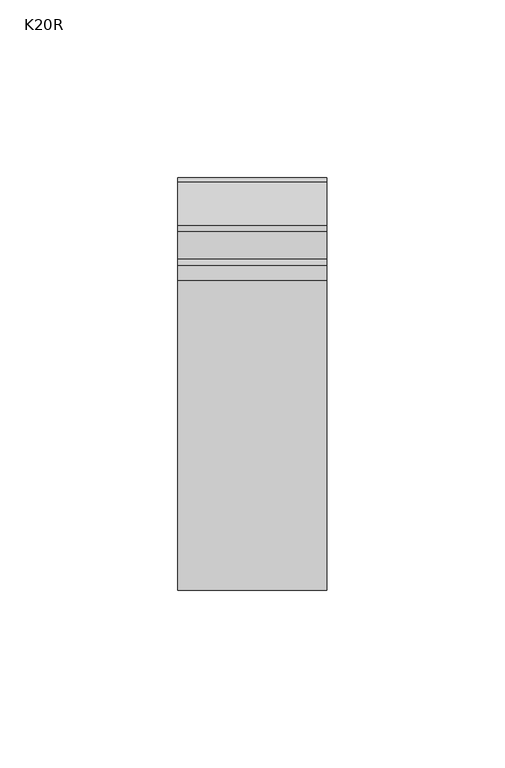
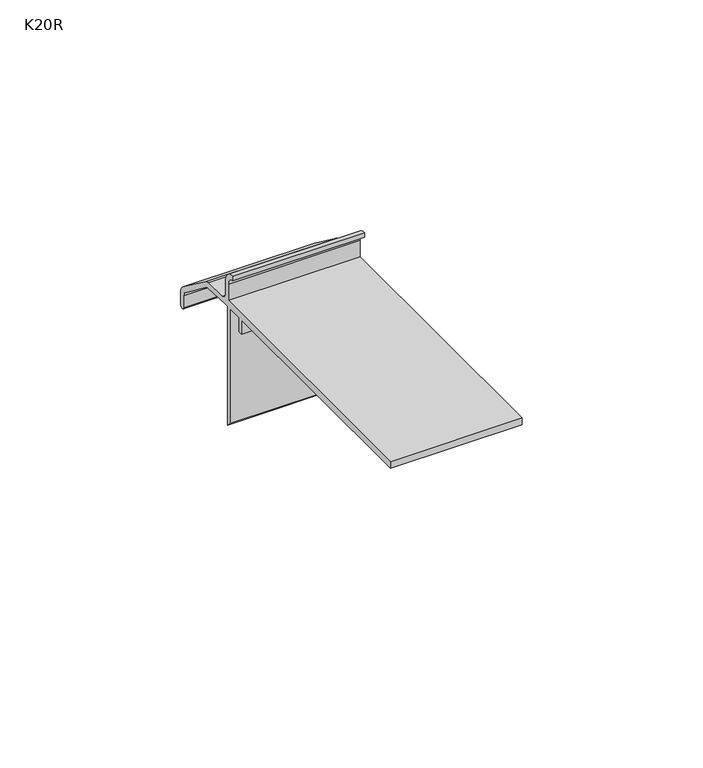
"""IFC4 building model written with IfcOpenShell, lengths in millimetres: proxy geometry, K20R Profil okapowy prosty z rynną : K20R."""

import ifcopenshell
import ifcopenshell.guid

model = None  # the IFC model being written
_history = None  # IfcOwnerHistory: only IFC2X3 demands one
_inside = {}  # id of a spatial element -> (the spatial element, [elements in it])
_under = {}  # id of a project, library or spatial element -> (it, [spatial elements below it])
_declared = {}  # id of a project -> (the project, [libraries it declares])
_typed = {}  # id of a type object -> (the type object, [elements of that type])
_made_of = {}  # id of a material, layer set ... -> (it, [elements and type objects made of it])


def new_model(schema):
    """Start an empty IFC model of exactly this schema.

    Asked for "IFC4X3", IfcOpenShell would pick the latest addendum, in which some entities
    have other attributes; the version numbers below select the first issue.
    IFC2X3 requires an IfcOwnerHistory on every rooted entity: one is made here for all.
    """
    global model, _history
    if schema == "IFC4X3":
        model = ifcopenshell.file(schema_version=(4, 3, 0, 0))
    else:
        model = ifcopenshell.file(schema=schema)
    _inside.clear()
    _under.clear()
    _declared.clear()
    _typed.clear()
    _made_of.clear()
    _history = None
    if model.schema == "IFC2X3":
        org = make("IfcOrganization", Name="unknown")
        user = make(
            "IfcPersonAndOrganization",
            ThePerson=make("IfcPerson", FamilyName="unknown"),
            TheOrganization=org,
        )
        app = make(
            "IfcApplication",
            ApplicationDeveloper=org,
            Version="unknown",
            ApplicationFullName="unknown",
            ApplicationIdentifier="unknown",
        )
        _history = make(
            "IfcOwnerHistory",
            OwningUser=user,
            OwningApplication=app,
            ChangeAction="ADDED",
            CreationDate=0,
        )
    return model


def make(cls, **values):
    """One entity of the class cls with the attributes given. An attribute that is None is left unset."""
    return model.create_entity(
        cls, **{name: value for name, value in values.items() if value is not None}
    )


def rooted(cls, **values):
    """An entity with a GlobalId (a new one), such as an element, a storey or a relation."""
    return make(cls, GlobalId=ifcopenshell.guid.new(), OwnerHistory=_history, **values)


def si_unit(unit_type, name, prefix=None):
    """IfcSIUnit, for example si_unit("LENGTHUNIT", "METRE", prefix="MILLI")."""
    return make("IfcSIUnit", UnitType=unit_type, Prefix=prefix, Name=name)


def assignment(units):
    """IfcUnitAssignment: the units of a project."""
    return None if units is None else make("IfcUnitAssignment", Units=units)


def point(xyz):
    """IfcCartesianPoint."""
    return None if xyz is None else make("IfcCartesianPoint", Coordinates=xyz)


def direction(xyz):
    """IfcDirection."""
    return None if xyz is None else make("IfcDirection", DirectionRatios=xyz)


def frame(location, z_axis=None, x_axis=None):
    """IfcAxis2Placement3D, a coordinate frame: its origin and axes. An axis left out is left unset."""
    return make(
        "IfcAxis2Placement3D",
        Location=point(location),
        Axis=direction(z_axis),
        RefDirection=direction(x_axis),
    )


def origin():
    """The frame at (0, 0, 0) with its axes left unset."""
    return frame((0.0, 0.0, 0.0))


def place(relative_to, where):
    """IfcLocalPlacement: puts the frame where relative to a parent placement (None: the world)."""
    return make(
        "IfcLocalPlacement", PlacementRelTo=relative_to, RelativePlacement=where
    )


def context(
    kind, dimensions, precision=None, world=None, true_north=None, identifier=None
):
    """IfcGeometricRepresentationContext, for example the 3D "Model" context."""
    return make(
        "IfcGeometricRepresentationContext",
        ContextIdentifier=identifier,
        ContextType=kind,
        CoordinateSpaceDimension=dimensions,
        Precision=precision,
        WorldCoordinateSystem=world,
        TrueNorth=true_north,
    )


def project(units=None, contexts=None):
    """IfcProject with its units and contexts."""
    return rooted(
        "IfcProject",
        Name="project",
        RepresentationContexts=contexts,
        UnitsInContext=assignment(units),
    )


def spatial(cls, under=None, at=None, **own):
    """A site, building, storey or space (cls), placed at a placement, below another one or the project."""
    s = rooted(cls, ObjectPlacement=at, **own)
    if under is not None:
        _under.setdefault(under.id(), (under, []))[1].append(s)
    return s


def polyline(points):
    """IfcPolyline through the points."""
    return make("IfcPolyline", Points=[point(p) for p in points])


def circle_curve(where, radius):
    """IfcCircle in the frame where."""
    return make("IfcCircle", Position=where, Radius=radius)


def shape(context_of_items, identifier, shape_type, items):
    """IfcShapeRepresentation: the items that make up one representation, for example the "Body"."""
    return make(
        "IfcShapeRepresentation",
        ContextOfItems=context_of_items,
        RepresentationIdentifier=identifier,
        RepresentationType=shape_type,
        Items=items,
    )


def source(mapping_origin, context_of_items, identifier, shape_type, items):
    """IfcRepresentationMap: a shape defined once, which mapped items show again and again."""
    return make(
        "IfcRepresentationMap",
        MappingOrigin=mapping_origin,
        MappedRepresentation=shape(context_of_items, identifier, shape_type, items),
    )


def transform(
    local_origin,
    x_axis=None,
    y_axis=None,
    z_axis=None,
    scale=None,
    scale2=None,
    scale3=None,
    uniform=True,
):
    """IfcCartesianTransformationOperator3D, or its non-uniform kind. x_axis, y_axis, z_axis: its Axis1, 2, 3."""
    if uniform:
        return make(
            "IfcCartesianTransformationOperator3D",
            Axis1=direction(x_axis),
            Axis2=direction(y_axis),
            LocalOrigin=point(local_origin),
            Scale=scale,
            Axis3=direction(z_axis),
        )
    return make(
        "IfcCartesianTransformationOperator3DnonUniform",
        Axis1=direction(x_axis),
        Axis2=direction(y_axis),
        LocalOrigin=point(local_origin),
        Scale=scale,
        Axis3=direction(z_axis),
        Scale2=scale2,
        Scale3=scale3,
    )


def mapped(mapping_source, mapping_target):
    """IfcMappedItem: shows the shape of a source again, moved by a transform."""
    return make(
        "IfcMappedItem", MappingSource=mapping_source, MappingTarget=mapping_target
    )


def made_of(thing, what):
    """Note that an element or type object is made of a material, layer set ...; save() writes the relation."""
    if what is not None:
        _made_of.setdefault(what.id(), (what, []))[1].append(thing)
    return thing


def element(
    cls,
    number,
    at=None,
    inside=None,
    cuts=None,
    type_object=None,
    material=None,
    context=None,
    identifier="Body",
    shape_type=None,
    held_by="IfcProductDefinitionShape",
    body=None,
    shapes=None,
    **own,
):
    """One element of the class cls, such as IfcWall. Its Tag is "e" and its number.

    at: its placement. inside: the storey or other place that contains it. cuts: it is an
    opening in that element (IfcRelVoidsElement). A single representation is given by context,
    identifier, shape_type and body (its items); several are given by shapes. held_by: the class
    of the entity that holds the representations. save() writes the other relations.
    """
    e = rooted(cls, Tag="e%d" % number, ObjectPlacement=at, **own)
    if body is not None:
        shapes = [shape(context, identifier, shape_type, body)]
    if shapes is not None:
        e.Representation = make(held_by, Representations=shapes)
    if inside is not None:
        _inside.setdefault(inside.id(), (inside, []))[1].append(e)
    if cuts is not None:
        rooted(
            "IfcRelVoidsElement", RelatingBuildingElement=cuts, RelatedOpeningElement=e
        )
    if type_object is not None:
        _typed.setdefault(type_object.id(), (type_object, []))[1].append(e)
    return made_of(e, material)


def aggregate(whole, parts):
    """IfcRelAggregates: a whole, such as a stair, and the parts it consists of."""
    return rooted("IfcRelAggregates", RelatingObject=whole, RelatedObjects=parts)


def save(model, path):
    """Write the relations noted so far, then the file.

    IfcRelAggregates (storeys below a building ...), IfcRelContainedInSpatialStructure (elements
    in a storey), IfcRelDefinesByType, IfcRelAssociatesMaterial and IfcRelDeclares: one each for
    every whole, place, type object, material and project.
    """
    for whole, parts in _under.values():
        aggregate(whole, parts)
    for where, things in _inside.values():
        rooted(
            "IfcRelContainedInSpatialStructure",
            RelatedElements=things,
            RelatingStructure=where,
        )
    for kind, things in _typed.values():
        rooted("IfcRelDefinesByType", RelatedObjects=things, RelatingType=kind)
    for what, things in _made_of.values():
        rooted("IfcRelAssociatesMaterial", RelatedObjects=things, RelatingMaterial=what)
    for by, libraries in _declared.values():
        rooted("IfcRelDeclares", RelatingContext=by, RelatedDefinitions=libraries)
    model.write(path)


def plane_surface(at):
    """IfcPlane: the flat surface through the origin of the frame at, square to its z axis."""
    return make("IfcPlane", Position=at)


def cylinder_surface(at, radius):
    """IfcCylindricalSurface: all points at the distance radius from the z axis of the frame at."""
    return make("IfcCylindricalSurface", Position=at, Radius=radius)


def revolved_surface(curve, axis_point, axis_direction):
    """IfcSurfaceOfRevolution: the curve turned about the line through axis_point along axis_direction."""
    return make(
        "IfcSurfaceOfRevolution",
        SweptCurve=make("IfcArbitraryOpenProfileDef", ProfileType="CURVE", Curve=curve),
        AxisPosition=make("IfcAxis1Placement", Location=point(axis_point), Axis=direction(axis_direction)),
    )


def advanced_brep(points, edges, surfaces, faces):
    """IfcAdvancedBrep: a solid bounded by faces that lie on surfaces and meet in shared edges.

    An edge is (start, end): straight between two places in points (the first is 0);
    or (start, end, curve); or (start, end, curve, False) where it runs against its curve.
    A face is (place in surfaces, loops), or (place, loops, False) where it looks against
    its surface's normal. A loop lists edges by number (the first is 1), with a minus sign
    where the edge is run from its end to its start. The first loop is the outer one.
    """
    corners = [point(p) for p in points]
    vertices = [make("IfcVertexPoint", VertexGeometry=c) for c in corners]
    made = []
    for start, end, *more in edges:
        made.append(
            make(
                "IfcEdgeCurve",
                EdgeStart=vertices[start],
                EdgeEnd=vertices[end],
                EdgeGeometry=more[0] if more else make("IfcPolyline", Points=[corners[start], corners[end]]),
                SameSense=more[1] if len(more) > 1 else True,
            )
        )
    hull = []
    for where, loops, *sense in faces:
        bounds = []
        for j, loop in enumerate(loops):
            ring = [make("IfcOrientedEdge", EdgeElement=made[abs(k) - 1], Orientation=k > 0) for k in loop]
            bounds.append(
                make(
                    "IfcFaceOuterBound" if j == 0 else "IfcFaceBound",
                    Bound=make("IfcEdgeLoop", EdgeList=ring),
                    Orientation=True,
                )
            )
        hull.append(make("IfcAdvancedFace", Bounds=bounds, FaceSurface=surfaces[where], SameSense=sense[0] if sense else True))
    return make("IfcAdvancedBrep", Outer=make("IfcClosedShell", CfsFaces=hull))


def k20r_fd4bf74c(model_context):
    return source(origin(), model_context, "Body", "AdvancedBrep", [
        advanced_brep(
        [(0.0, 4.0000007, -8.2869169), (0.0, 5.930201, -10.2872957), (0.0, 13.7033457, -10.5587402), (0.0, 15.4054451, -11.1610531), (0.0, 27.605445, -20.3544126), (0.0, 28.8, -22.750319), (0.0, 28.8, -27.0198916), (0.0, 27.1, -27.0198916), (0.0, 27.1, -23.0993261), (0.0, 26.3036301, -21.5020551), (0.0, 14.4327214, -12.5566836), (0.0, 13.5823481, -12.2555508), (0.0, 3.9703269, -11.9198912), (0.0, 2.8999983, -11.9198912), (0.0, 2.8999983, -51.9948908), (0.0, 1.3999986, -50.494891), (0.0, 1.3999986, -11.9198912), (0.0, -3.6000013, -11.9198912), (0.0, -3.6000013, -16.6198916), (0.0, -4.7999993, -16.6198916), (0.0, -4.7999993, -11.9198912), (0.0, -87.2999988, -11.9198912), (0.0, -87.2999988, -9.6198913), (0.0, 2.3999996, -9.6198913), (0.0, 2.3999996, -4.1001397), (0.0, 0.0, -1.6007811), (0.0, 0.0, 0.0), (0.0, 4.0, -4.0987803), (42.000476, 4.0000007, -8.2869169), (42.000476, 4.0000007, -4.0987801), (42.000476, 0.0, 0.0), (42.000476, 0.0, -1.6007811), (42.000476, 2.3999996, -4.1001397), (42.000476, 2.3999996, -9.6198913), (42.000476, -87.2999988, -9.6198913), (42.000476, -87.2999988, -11.9198912), (42.000476, -4.7999993, -11.9198912), (42.000476, -4.7999993, -16.6198916), (42.000476, -3.6000013, -16.6198916), (42.000476, -3.6000013, -11.9198912), (42.000476, 1.3999986, -11.9198912), (42.000476, 1.3999986, -50.494891), (42.000476, 2.8999983, -51.9948908), (42.000476, 2.8999983, -11.9198912), (42.000476, 3.9703269, -11.9198912), (42.000476, 13.5823481, -12.255551), (42.000476, 14.4327213, -12.5566837), (42.000476, 26.3036302, -21.502055), (42.000476, 27.1, -23.0993261), (42.000476, 27.1, -27.0198916), (42.000476, 28.8, -27.0198916), (42.000476, 28.8, -22.750319), (42.000476, 27.6054451, -20.3544125), (42.000476, 15.4054451, -11.1610531), (42.000476, 13.7033457, -10.5587402), (42.000476, 5.930201, -10.2872957)],
        [
            (0, 1, circle_curve(frame((0.0, 6.0, -8.288514), z_axis=(1.0, 0.0, 0.0), x_axis=(0.0, -1.0, 0.0)), 2.0)),
            (1, 2),
            (2, 3, circle_curve(frame((0.0, 13.6, -13.5569596), z_axis=(-1.0, 0.0, 0.0), x_axis=(0.0, -1.0, 0.0)), 3.0)),
            (3, 4),
            (4, 5, circle_curve(frame((0.0, 25.8, -22.750319), z_axis=(-1.0, 0.0, 0.0), x_axis=(0.0, -1.0, 0.0)), 3.0)),
            (5, 6),
            (6, 7, circle_curve(frame((0.0, 27.95, -27.0198916), z_axis=(-1.0, 0.0, 0.0), x_axis=(0.0, -1.0, 0.0)), 0.85)),
            (7, 8),
            (8, 9, circle_curve(frame((0.0, 25.1, -23.0993261), z_axis=(1.0, 0.0, 0.0), x_axis=(0.0, -1.0, 0.0)), 2.0)),
            (9, 10),
            (10, 11, circle_curve(frame((0.0, 13.5299988, -13.754637), z_axis=(1.0, 0.0, 0.0), x_axis=(0.0, -1.0, 0.0)), 1.5)),
            (11, 12),
            (12, 13),
            (13, 14),
            (14, 15),
            (15, 16),
            (16, 17),
            (17, 18),
            (18, 19),
            (19, 20),
            (20, 21),
            (21, 22),
            (22, 23),
            (23, 24),
            (24, 25, circle_curve(frame((0.0, -0.1, -4.0987803), z_axis=(1.0, 0.0, 0.0), x_axis=(0.0, -1.0, 0.0)), 2.5)),
            (25, 26),
            (26, 27, circle_curve(frame((0.0, -0.1, -4.0987803), z_axis=(-1.0, 0.0, 0.0), x_axis=(0.0, -1.0, 0.0)), 4.1)),
            (27, 0),
            (28, 29),
            (29, 30, circle_curve(frame((42.000476, -0.1, -4.0987803), z_axis=(1.0, 0.0, 0.0), x_axis=(0.0, -1.0, 0.0)), 4.1)),
            (30, 31),
            (31, 32, circle_curve(frame((42.000476, -0.1, -4.0987803), z_axis=(-1.0, 0.0, 0.0), x_axis=(0.0, -1.0, 0.0)), 2.5)),
            (32, 33),
            (33, 34),
            (34, 35),
            (35, 36),
            (36, 37),
            (37, 38),
            (38, 39),
            (39, 40),
            (40, 41),
            (41, 42),
            (42, 43),
            (43, 44),
            (44, 45),
            (45, 46, circle_curve(frame((42.000476, 13.5299988, -13.754637), z_axis=(-1.0, 0.0, 0.0), x_axis=(0.0, -1.0, 0.0)), 1.5)),
            (46, 47),
            (47, 48, circle_curve(frame((42.000476, 25.1, -23.0993261), z_axis=(-1.0, 0.0, 0.0), x_axis=(0.0, -1.0, 0.0)), 2.0)),
            (48, 49),
            (49, 50, circle_curve(frame((42.000476, 27.95, -27.0198916), z_axis=(1.0, 0.0, 0.0), x_axis=(0.0, -1.0, 0.0)), 0.85)),
            (50, 51),
            (51, 52, circle_curve(frame((42.000476, 25.8, -22.750319), z_axis=(1.0, 0.0, 0.0), x_axis=(0.0, -1.0, 0.0)), 3.0)),
            (52, 53),
            (53, 54, circle_curve(frame((42.000476, 13.6, -13.5569596), z_axis=(1.0, 0.0, 0.0), x_axis=(0.0, -1.0, 0.0)), 3.0)),
            (54, 55),
            (55, 28, circle_curve(frame((42.000476, 6.0, -8.288514), z_axis=(-1.0, 0.0, 0.0), x_axis=(0.0, -1.0, 0.0)), 2.0)),
            (27, 29),
            (28, 0),
            (26, 30),
            (25, 31),
            (24, 32),
            (23, 33),
            (22, 34),
            (21, 35),
            (20, 36),
            (19, 37),
            (18, 38),
            (17, 39),
            (16, 40),
            (15, 41),
            (14, 42),
            (13, 43),
            (12, 44),
            (11, 45),
            (10, 46),
            (9, 47),
            (8, 48),
            (7, 49),
            (6, 50),
            (5, 51),
            (4, 52),
            (3, 53),
            (2, 54),
            (1, 55),
        ],
        [
            plane_surface(frame((0.0, 0.0, 0.0), z_axis=(-1.0, 0.0, 0.0), x_axis=(0.0, 0.0, 1.0))),
            plane_surface(frame((42.000476, 0.0, 0.0), z_axis=(1.0, 0.0, 0.0), x_axis=(0.0, 0.0, 1.0))),
            plane_surface(frame((0.0, 4.0000007, -8.2869169), z_axis=(0.0, 1.0, 0.0), x_axis=(1.0, 0.0, 0.0))),
            cylinder_surface(frame((0.0, -0.1, -4.0987803), z_axis=(-1.0, 0.0, 0.0), x_axis=(0.0, -1.0, 0.0)), 4.1),
            plane_surface(frame((0.0, 0.0, 0.0), z_axis=(0.0, -1.0, 0.0), x_axis=(1.0, 0.0, 0.0))),
            revolved_surface(polyline([(42.000476, -2.6, -4.0987803), (0.0, -2.6, -4.0987803)]), (0.0, -0.1, -4.0987803), (1.0, 0.0, 0.0)),
            plane_surface(frame((0.0, 2.3999996, -4.1001397), z_axis=(0.0, -1.0, 0.0), x_axis=(1.0, 0.0, 0.0))),
            plane_surface(frame((0.0, 2.3999996, -9.6198913), z_axis=(0.0, 0.0, 1.0), x_axis=(1.0, 0.0, 0.0))),
            plane_surface(frame((0.0, -87.2999988, -9.6198913), z_axis=(0.0, -1.0, 0.0), x_axis=(1.0, 0.0, 0.0))),
            plane_surface(frame((0.0, -87.2999988, -11.9198912), z_axis=(0.0, 0.0, -1.0), x_axis=(1.0, 0.0, 0.0))),
            plane_surface(frame((0.0, -4.7999993, -11.9198912), z_axis=(0.0, -1.0, 0.0), x_axis=(1.0, 0.0, 0.0))),
            plane_surface(frame((0.0, -4.7999993, -16.6198916), z_axis=(0.0, 0.0, -1.0), x_axis=(1.0, 0.0, 0.0))),
            plane_surface(frame((0.0, -3.6000013, -16.6198916), z_axis=(0.0, 1.0, 0.0), x_axis=(1.0, 0.0, 0.0))),
            plane_surface(frame((0.0, -3.6000013, -11.9198912), z_axis=(0.0, 0.0, -1.0), x_axis=(1.0, 0.0, 0.0))),
            plane_surface(frame((0.0, 1.3999986, -11.9198912), z_axis=(0.0, -1.0, 0.0), x_axis=(1.0, 0.0, 0.0))),
            plane_surface(frame((0.0, 1.3999986, -50.494891), z_axis=(0.0, -0.7071067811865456, -0.7071067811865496), x_axis=(1.0, 0.0, 0.0))),
            plane_surface(frame((0.0, 2.8999983, -51.9948908), z_axis=(0.0, 1.0, 0.0), x_axis=(1.0, 0.0, 0.0))),
            plane_surface(frame((0.0, 2.8999983, -11.9198912), z_axis=(0.0, 0.0, -1.0), x_axis=(1.0, 0.0, 0.0))),
            plane_surface(frame((0.0, 3.9703269, -11.9198912), z_axis=(0.0, -0.034899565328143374, -0.9993908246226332), x_axis=(1.0, 0.0, 0.0))),
            revolved_surface(polyline([(42.000476, 12.0299988, -13.754637), (0.0, 12.0299988, -13.754637)]), (0.0, 13.5299988, -13.754637), (1.0, 0.0, 0.0)),
            plane_surface(frame((0.0, 14.4327214, -12.5566836), z_axis=(0.0, -0.6018150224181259, -0.7986355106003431), x_axis=(1.0, 0.0, 0.0))),
            revolved_surface(polyline([(42.000476, 23.1, -23.0993261), (0.0, 23.1, -23.0993261)]), (0.0, 25.1, -23.0993261), (1.0, 0.0, 0.0)),
            plane_surface(frame((0.0, 27.1, -23.0993261), z_axis=(0.0, -1.0, 0.0), x_axis=(1.0, 0.0, 0.0))),
            cylinder_surface(frame((0.0, 27.95, -27.0198916), z_axis=(-1.0, 0.0, 0.0), x_axis=(0.0, -1.0, 0.0)), 0.85),
            plane_surface(frame((0.0, 28.8, -27.0198916), z_axis=(0.0, 1.0, 0.0), x_axis=(1.0, 0.0, 0.0))),
            cylinder_surface(frame((0.0, 25.8, -22.750319), z_axis=(-1.0, 0.0, 0.0), x_axis=(0.0, -1.0, 0.0)), 3.0),
            plane_surface(frame((0.0, 27.605445, -20.3544126), z_axis=(0.0, 0.6018150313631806, 0.7986355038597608), x_axis=(1.0, 0.0, 0.0))),
            cylinder_surface(frame((0.0, 13.6, -13.5569596), z_axis=(-1.0, 0.0, 0.0), x_axis=(0.0, -1.0, 0.0)), 3.0),
            plane_surface(frame((0.0, 13.7033457, -10.5587402), z_axis=(0.0, 0.03489952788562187, 0.9993908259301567), x_axis=(1.0, 0.0, 0.0))),
            revolved_surface(polyline([(42.000476, 4.0, -8.288514), (0.0, 4.0, -8.288514)]), (0.0, 6.0, -8.288514), (1.0, 0.0, 0.0)),
        ],
        [
            (0, [[1, 2, 3, 4, 5, 6, 7, 8, 9, 10, 11, 12, 13, 14, 15, 16, 17, 18, 19, 20, 21, 22, 23, 24, 25, 26, 27, 28]]),
            (1, [[29, 30, 31, 32, 33, 34, 35, 36, 37, 38, 39, 40, 41, 42, 43, 44, 45, 46, 47, 48, 49, 50, 51, 52, 53, 54, 55, 56]]),
            (2, [[57, -29, 58, -28]]),
            (3, [[59, -30, -57, -27]]),
            (4, [[60, -31, -59, -26]]),
            (5, [[61, -32, -60, -25]]),
            (6, [[62, -33, -61, -24]]),
            (7, [[63, -34, -62, -23]]),
            (8, [[64, -35, -63, -22]]),
            (9, [[65, -36, -64, -21]]),
            (10, [[66, -37, -65, -20]]),
            (11, [[67, -38, -66, -19]]),
            (12, [[68, -39, -67, -18]]),
            (13, [[69, -40, -68, -17]]),
            (14, [[70, -41, -69, -16]]),
            (15, [[71, -42, -70, -15]]),
            (16, [[72, -43, -71, -14]]),
            (17, [[73, -44, -72, -13]]),
            (18, [[74, -45, -73, -12]]),
            (19, [[75, -46, -74, -11]]),
            (20, [[76, -47, -75, -10]]),
            (21, [[77, -48, -76, -9]]),
            (22, [[78, -49, -77, -8]]),
            (23, [[79, -50, -78, -7]]),
            (24, [[80, -51, -79, -6]]),
            (25, [[81, -52, -80, -5]]),
            (26, [[82, -53, -81, -4]]),
            (27, [[83, -54, -82, -3]]),
            (28, [[84, -55, -83, -2]]),
            (29, [[-58, -56, -84, -1]]),
        ],
    ),
    ])


if __name__ == "__main__":
    model = new_model("IFC4")
    model_context = context("Model", 3, world=origin())
    ifc_project = project(units=[si_unit("LENGTHUNIT", "METRE", prefix="MILLI")], contexts=[model_context])
    site = spatial("IfcSite", under=ifc_project)
    building = spatial("IfcBuilding", under=site)
    placement = place(None, origin())
    k20r_shape = k20r_fd4bf74c(model_context)
    element("IfcBuildingElementProxy", 1, Name="K20R Profil okapowy prosty z rynną : K20R", ObjectType="K20R Profil okapowy prosty z rynną : K20R", at=placement, inside=building, context=model_context, shape_type="MappedRepresentation", body=[
        mapped(k20r_shape, transform((0.0, 0.0, 0.0), x_axis=(1.0, 0.0, 0.0), y_axis=(0.0, 1.0, 0.0), z_axis=(0.0, 0.0, 1.0))),
    ])
    save(model, "model.ifc")
